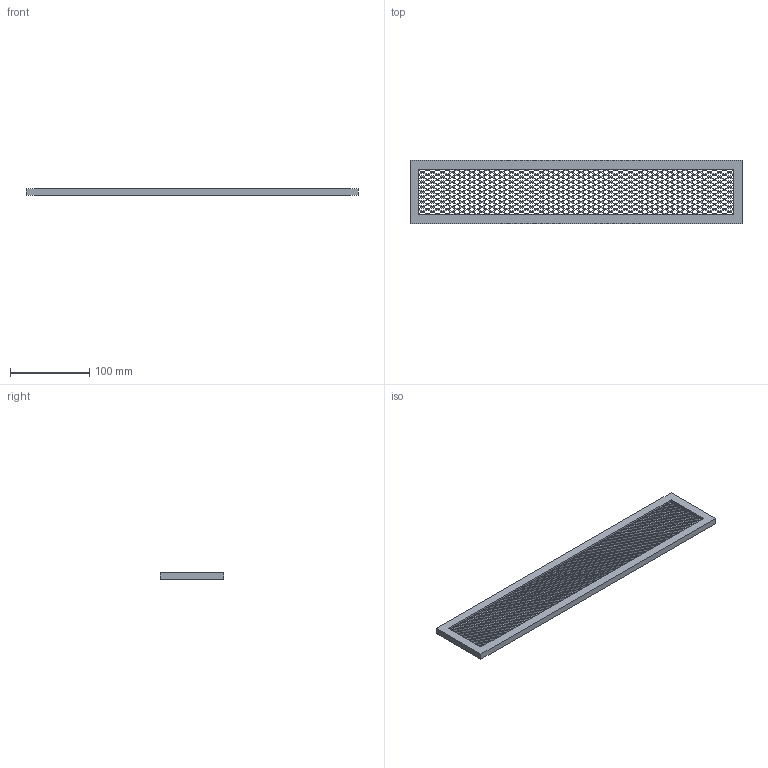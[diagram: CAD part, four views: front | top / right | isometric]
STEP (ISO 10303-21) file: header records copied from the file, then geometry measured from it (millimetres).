
FILE_DESCRIPTION((''),'2;1');
FILE_NAME('Z:\Manufacturing\drawings\Updated 2009\Blowers\STEP''s\HB2UFILTER.stp','2011-10-05T14:23:43',('tfoster'),(''),'Autodesk Inventor 2012','Autodesk Inventor 2012','');
FILE_SCHEMA(('AUTOMOTIVE_DESIGN { 1 0 10303 214 1 1 1 1 }'));
Length unit declared in the file: millimetre
Products named in the file (3): 2U Filter Assembly; 2U Screen Frame; 2U Screen Mash
Assembly tree (2 placements, depth 2):
  2U Filter Assembly
    2U Screen Frame
    2U Screen Mash
Bounding box: 420 x 80 x 8 mm (x, y, z)
Volume: 93817.8 mm3; surface area: 129085.4 mm2
Topology: 2 solids, 2 shells, 3332 faces, 9978 edges, 6652 vertices
Faces by surface type: plane 3332
Entity records: 112896 total; most frequent: CARTESIAN_POINT 19967, ORIENTED_EDGE 19956, DIRECTION 16652, VECTOR 9978, LINE 9978, EDGE_CURVE 9978, VERTEX_POINT 6652, EDGE_LOOP 4830
